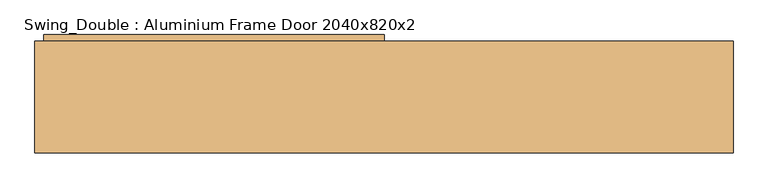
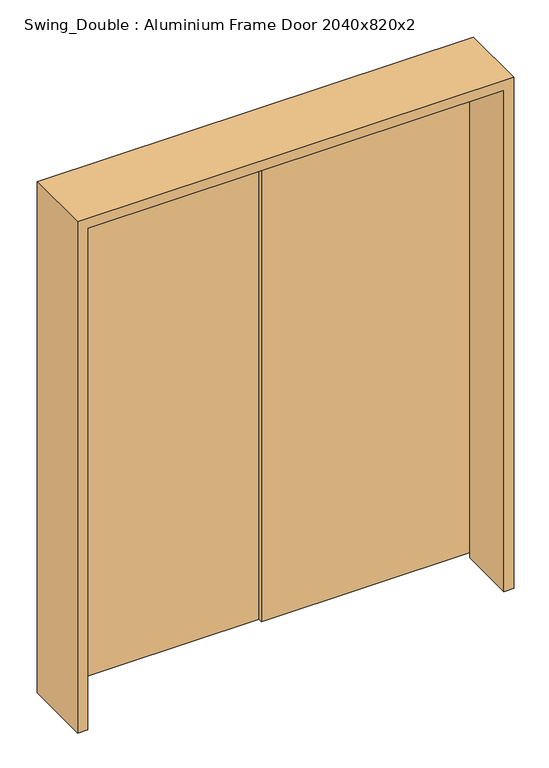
"""IFC4 building model written with IfcOpenShell, lengths in millimetres: door geometry, Swing_Double : Aluminium Frame Door 2040x820x2."""

from ifc_helpers import new_model, si_unit, frame, origin, place, context, project, spatial, polyline, outline, extrude, faceted_brep, source, transform, mapped, element, save


def swing_double_aluminium_frame_door_2040x820x2_4b5585a8(model_context):
    return source(origin(), model_context, "Body", "SolidModel", [
        extrude(outline(polyline([(-211.5, 135.0), (608.5, 135.0), (608.5, 95.0), (-211.5, 95.0), (-211.5, 135.0)])), frame((0.0, 0.0, 20.0), z_axis=(0.0, 0.0, 1.0), x_axis=(1.0, 0.0, 0.0)), (0.0, 0.0, 1.0), 2040.0),
        extrude(outline(polyline([(-211.5, 150.0), (-211.5, 110.0), (-1031.5, 110.0), (-1031.5, 150.0), (-211.5, 150.0)])), frame((0.0, 0.0, 20.0), z_axis=(0.0, 0.0, 1.0), x_axis=(1.0, 0.0, 0.0)), (0.0, 0.0, 1.0), 2040.0),
        faceted_brep([(629.5, -135.0, 0.0), (590.5, -135.0, 0.0), (590.5, 93.0, 0.0), (610.5, 93.0, 0.0), (610.5, 135.0, 0.0), (629.5, 135.0, 0.0), (629.5, -135.0, 2081.0), (-1052.5, -135.0, 2081.0), (-1052.5, -135.0, 0.0), (-1013.5, -135.0, 0.0), (-1013.5, -135.0, 2042.0), (590.5, -135.0, 2042.0), (590.5, 93.0, 2042.0), (-1013.5, 93.0, 2042.0), (-1013.5, 93.0, 0.0), (-1033.5, 93.0, 0.0), (-1033.5, 93.0, 2062.0), (610.5, 93.0, 2062.0), (610.5, 135.0, 2062.0), (-1033.5, 135.0, 2062.0), (-1033.5, 135.0, 0.0), (-1052.5, 135.0, 0.0), (-1052.5, 135.0, 2081.0), (629.5, 135.0, 2081.0)], [[[0, 1, 2, 3, 4, 5]], [[1, 0, 6, 7, 8, 9, 10, 11]], [[2, 1, 11, 12]], [[3, 2, 12, 13, 14, 15, 16, 17]], [[4, 3, 17, 18]], [[5, 4, 18, 19, 20, 21, 22, 23]], [[0, 5, 23, 6]], [[19, 16, 15, 20]], [[8, 21, 20, 15, 14, 9]], [[7, 22, 21, 8]], [[13, 10, 9, 14]], [[6, 23, 22, 7]], [[18, 17, 16, 19]], [[12, 11, 10, 13]]]),
    ])


if __name__ == "__main__":
    model = new_model("IFC4")
    model_context = context("Model", 3, world=origin())
    ifc_project = project(units=[si_unit("LENGTHUNIT", "METRE", prefix="MILLI")], contexts=[model_context])
    site = spatial("IfcSite", under=ifc_project)
    building = spatial("IfcBuilding", under=site)
    placement = place(None, origin())
    swing_double_aluminium_frame_door_2040x820x2_shape = swing_double_aluminium_frame_door_2040x820x2_4b5585a8(model_context)
    element("IfcDoor", 1, ObjectType="Swing_Double : Aluminium Frame Door 2040x820x2", at=placement, inside=building, context=model_context, shape_type="MappedRepresentation", body=[
        mapped(swing_double_aluminium_frame_door_2040x820x2_shape, transform((0.0, 0.0, 0.0), x_axis=(1.0, 0.0, 0.0), y_axis=(0.0, 1.0, 0.0), z_axis=(0.0, 0.0, 1.0))),
    ])
    save(model, "model.ifc")
